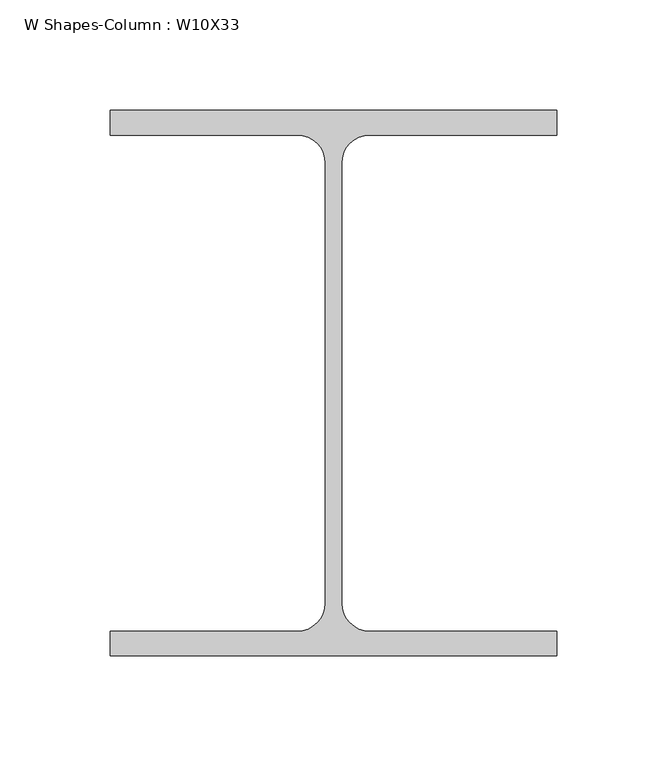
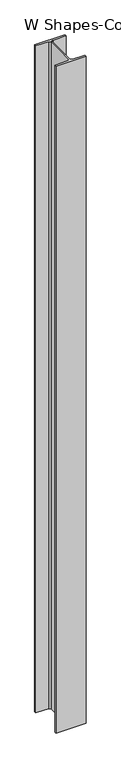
"""IFC4 building model written with IfcOpenShell, lengths in millimetres: column geometry, W Shapes-Column : W10X33."""

import ifcopenshell
import ifcopenshell.guid

model = None  # the IFC model being written
_history = None  # IfcOwnerHistory: only IFC2X3 demands one
_inside = {}  # id of a spatial element -> (the spatial element, [elements in it])
_under = {}  # id of a project, library or spatial element -> (it, [spatial elements below it])
_declared = {}  # id of a project -> (the project, [libraries it declares])
_typed = {}  # id of a type object -> (the type object, [elements of that type])
_made_of = {}  # id of a material, layer set ... -> (it, [elements and type objects made of it])


def new_model(schema):
    """Start an empty IFC model of exactly this schema.

    Asked for "IFC4X3", IfcOpenShell would pick the latest addendum, in which some entities
    have other attributes; the version numbers below select the first issue.
    IFC2X3 requires an IfcOwnerHistory on every rooted entity: one is made here for all.
    """
    global model, _history
    if schema == "IFC4X3":
        model = ifcopenshell.file(schema_version=(4, 3, 0, 0))
    else:
        model = ifcopenshell.file(schema=schema)
    _inside.clear()
    _under.clear()
    _declared.clear()
    _typed.clear()
    _made_of.clear()
    _history = None
    if model.schema == "IFC2X3":
        org = make("IfcOrganization", Name="unknown")
        user = make(
            "IfcPersonAndOrganization",
            ThePerson=make("IfcPerson", FamilyName="unknown"),
            TheOrganization=org,
        )
        app = make(
            "IfcApplication",
            ApplicationDeveloper=org,
            Version="unknown",
            ApplicationFullName="unknown",
            ApplicationIdentifier="unknown",
        )
        _history = make(
            "IfcOwnerHistory",
            OwningUser=user,
            OwningApplication=app,
            ChangeAction="ADDED",
            CreationDate=0,
        )
    return model


def make(cls, **values):
    """One entity of the class cls with the attributes given. An attribute that is None is left unset."""
    return model.create_entity(
        cls, **{name: value for name, value in values.items() if value is not None}
    )


def rooted(cls, **values):
    """An entity with a GlobalId (a new one), such as an element, a storey or a relation."""
    return make(cls, GlobalId=ifcopenshell.guid.new(), OwnerHistory=_history, **values)


def si_unit(unit_type, name, prefix=None):
    """IfcSIUnit, for example si_unit("LENGTHUNIT", "METRE", prefix="MILLI")."""
    return make("IfcSIUnit", UnitType=unit_type, Prefix=prefix, Name=name)


def assignment(units):
    """IfcUnitAssignment: the units of a project."""
    return None if units is None else make("IfcUnitAssignment", Units=units)


def point(xyz):
    """IfcCartesianPoint."""
    return None if xyz is None else make("IfcCartesianPoint", Coordinates=xyz)


def direction(xyz):
    """IfcDirection."""
    return None if xyz is None else make("IfcDirection", DirectionRatios=xyz)


def frame(location, z_axis=None, x_axis=None):
    """IfcAxis2Placement3D, a coordinate frame: its origin and axes. An axis left out is left unset."""
    return make(
        "IfcAxis2Placement3D",
        Location=point(location),
        Axis=direction(z_axis),
        RefDirection=direction(x_axis),
    )


def frame_2d(location, x_axis=None):
    """IfcAxis2Placement2D, a coordinate frame in the plane: its origin and x axis."""
    return make(
        "IfcAxis2Placement2D", Location=point(location), RefDirection=direction(x_axis)
    )


def origin():
    """The frame at (0, 0, 0) with its axes left unset."""
    return frame((0.0, 0.0, 0.0))


def place(relative_to, where):
    """IfcLocalPlacement: puts the frame where relative to a parent placement (None: the world)."""
    return make(
        "IfcLocalPlacement", PlacementRelTo=relative_to, RelativePlacement=where
    )


def context(
    kind, dimensions, precision=None, world=None, true_north=None, identifier=None
):
    """IfcGeometricRepresentationContext, for example the 3D "Model" context."""
    return make(
        "IfcGeometricRepresentationContext",
        ContextIdentifier=identifier,
        ContextType=kind,
        CoordinateSpaceDimension=dimensions,
        Precision=precision,
        WorldCoordinateSystem=world,
        TrueNorth=true_north,
    )


def project(units=None, contexts=None):
    """IfcProject with its units and contexts."""
    return rooted(
        "IfcProject",
        Name="project",
        RepresentationContexts=contexts,
        UnitsInContext=assignment(units),
    )


def spatial(cls, under=None, at=None, **own):
    """A site, building, storey or space (cls), placed at a placement, below another one or the project."""
    s = rooted(cls, ObjectPlacement=at, **own)
    if under is not None:
        _under.setdefault(under.id(), (under, []))[1].append(s)
    return s


def polyline(points):
    """IfcPolyline through the points."""
    return make("IfcPolyline", Points=[point(p) for p in points])


def circle_curve(where, radius):
    """IfcCircle in the frame where."""
    return make("IfcCircle", Position=where, Radius=radius)


def trimmed(basis, trim1, trim2, sense, master):
    """IfcTrimmedCurve: the piece of a basis curve between two trims."""
    return make(
        "IfcTrimmedCurve",
        BasisCurve=basis,
        Trim1=trim1,
        Trim2=trim2,
        SenseAgreement=sense,
        MasterRepresentation=master,
    )


def segment(curve, same_sense, transition):
    """IfcCompositeCurveSegment."""
    return make(
        "IfcCompositeCurveSegment",
        Transition=transition,
        SameSense=same_sense,
        ParentCurve=curve,
    )


def composite_curve(segments, self_intersect=None):
    """IfcCompositeCurve: segments joined end to end."""
    return make("IfcCompositeCurve", Segments=segments, SelfIntersect=self_intersect)


def outline(outer, holes=None, kind="AREA"):
    """IfcArbitraryClosedProfileDef: a profile drawn as a closed curve; with holes, ...WithVoids."""
    if holes is None:
        return make("IfcArbitraryClosedProfileDef", ProfileType=kind, OuterCurve=outer)
    return make(
        "IfcArbitraryProfileDefWithVoids",
        ProfileType=kind,
        OuterCurve=outer,
        InnerCurves=holes,
    )


def extrude(swept, where, along, depth):
    """IfcExtrudedAreaSolid: the profile swept, set in the frame where, extruded along a direction by depth."""
    return make(
        "IfcExtrudedAreaSolid",
        SweptArea=swept,
        Position=where,
        ExtrudedDirection=direction(along),
        Depth=depth,
    )


def shape(context_of_items, identifier, shape_type, items):
    """IfcShapeRepresentation: the items that make up one representation, for example the "Body"."""
    return make(
        "IfcShapeRepresentation",
        ContextOfItems=context_of_items,
        RepresentationIdentifier=identifier,
        RepresentationType=shape_type,
        Items=items,
    )


def source(mapping_origin, context_of_items, identifier, shape_type, items):
    """IfcRepresentationMap: a shape defined once, which mapped items show again and again."""
    return make(
        "IfcRepresentationMap",
        MappingOrigin=mapping_origin,
        MappedRepresentation=shape(context_of_items, identifier, shape_type, items),
    )


def transform(
    local_origin,
    x_axis=None,
    y_axis=None,
    z_axis=None,
    scale=None,
    scale2=None,
    scale3=None,
    uniform=True,
):
    """IfcCartesianTransformationOperator3D, or its non-uniform kind. x_axis, y_axis, z_axis: its Axis1, 2, 3."""
    if uniform:
        return make(
            "IfcCartesianTransformationOperator3D",
            Axis1=direction(x_axis),
            Axis2=direction(y_axis),
            LocalOrigin=point(local_origin),
            Scale=scale,
            Axis3=direction(z_axis),
        )
    return make(
        "IfcCartesianTransformationOperator3DnonUniform",
        Axis1=direction(x_axis),
        Axis2=direction(y_axis),
        LocalOrigin=point(local_origin),
        Scale=scale,
        Axis3=direction(z_axis),
        Scale2=scale2,
        Scale3=scale3,
    )


def mapped(mapping_source, mapping_target):
    """IfcMappedItem: shows the shape of a source again, moved by a transform."""
    return make(
        "IfcMappedItem", MappingSource=mapping_source, MappingTarget=mapping_target
    )


def made_of(thing, what):
    """Note that an element or type object is made of a material, layer set ...; save() writes the relation."""
    if what is not None:
        _made_of.setdefault(what.id(), (what, []))[1].append(thing)
    return thing


def element(
    cls,
    number,
    at=None,
    inside=None,
    cuts=None,
    type_object=None,
    material=None,
    context=None,
    identifier="Body",
    shape_type=None,
    held_by="IfcProductDefinitionShape",
    body=None,
    shapes=None,
    **own,
):
    """One element of the class cls, such as IfcWall. Its Tag is "e" and its number.

    at: its placement. inside: the storey or other place that contains it. cuts: it is an
    opening in that element (IfcRelVoidsElement). A single representation is given by context,
    identifier, shape_type and body (its items); several are given by shapes. held_by: the class
    of the entity that holds the representations. save() writes the other relations.
    """
    e = rooted(cls, Tag="e%d" % number, ObjectPlacement=at, **own)
    if body is not None:
        shapes = [shape(context, identifier, shape_type, body)]
    if shapes is not None:
        e.Representation = make(held_by, Representations=shapes)
    if inside is not None:
        _inside.setdefault(inside.id(), (inside, []))[1].append(e)
    if cuts is not None:
        rooted(
            "IfcRelVoidsElement", RelatingBuildingElement=cuts, RelatedOpeningElement=e
        )
    if type_object is not None:
        _typed.setdefault(type_object.id(), (type_object, []))[1].append(e)
    return made_of(e, material)


def aggregate(whole, parts):
    """IfcRelAggregates: a whole, such as a stair, and the parts it consists of."""
    return rooted("IfcRelAggregates", RelatingObject=whole, RelatedObjects=parts)


def save(model, path):
    """Write the relations noted so far, then the file.

    IfcRelAggregates (storeys below a building ...), IfcRelContainedInSpatialStructure (elements
    in a storey), IfcRelDefinesByType, IfcRelAssociatesMaterial and IfcRelDeclares: one each for
    every whole, place, type object, material and project.
    """
    for whole, parts in _under.values():
        aggregate(whole, parts)
    for where, things in _inside.values():
        rooted(
            "IfcRelContainedInSpatialStructure",
            RelatedElements=things,
            RelatingStructure=where,
        )
    for kind, things in _typed.values():
        rooted("IfcRelDefinesByType", RelatedObjects=things, RelatingType=kind)
    for what, things in _made_of.values():
        rooted("IfcRelAssociatesMaterial", RelatedObjects=things, RelatingMaterial=what)
    for by, libraries in _declared.values():
        rooted("IfcRelDeclares", RelatingContext=by, RelatedDefinitions=libraries)
    model.write(path)


def w_shapes_column_w10x33_dbc38788(model_context):
    return source(origin(), model_context, "Body", "SweptSolid", [
        extrude(outline(composite_curve([segment(polyline([(101.092, 123.571), (101.092, 112.395), (16.383, 112.395)]), True, "CONTINUOUS"), segment(trimmed(circle_curve(frame_2d((16.383, 99.695)), 12.7), [point((16.383, 112.395))], [point((3.683, 99.695))], True, "CARTESIAN"), True, "CONTINUOUS"), segment(polyline([(3.683, 99.695), (3.683, -99.695)]), True, "CONTINUOUS"), segment(trimmed(circle_curve(frame_2d((16.383, -99.695)), 12.7), [point((3.683, -99.695))], [point((16.383, -112.395))], True, "CARTESIAN"), True, "CONTINUOUS"), segment(polyline([(16.383, -112.395), (101.092, -112.395), (101.092, -123.571), (-101.092, -123.571), (-101.092, -112.395), (-16.383, -112.395)]), True, "CONTINUOUS"), segment(trimmed(circle_curve(frame_2d((-16.383, -99.695)), 12.7), [point((-16.383, -112.395))], [point((-3.683, -99.695))], True, "CARTESIAN"), True, "CONTINUOUS"), segment(polyline([(-3.683, -99.695), (-3.683, 99.695)]), True, "CONTINUOUS"), segment(trimmed(circle_curve(frame_2d((-16.383, 99.695)), 12.7), [point((-3.683, 99.695))], [point((-16.383, 112.395))], True, "CARTESIAN"), True, "CONTINUOUS"), segment(polyline([(-16.383, 112.395), (-101.092, 112.395), (-101.092, 123.571), (101.092, 123.571)]), True, "CONTINUOUS")], self_intersect=False)), frame((0.0, 0.0, -1676.4), z_axis=(0.0, 0.0, 1.0), x_axis=(1.0, 0.0, 0.0)), (0.0, 0.0, 1.0), 4724.4),
    ])


if __name__ == "__main__":
    model = new_model("IFC4")
    model_context = context("Model", 3, world=origin())
    ifc_project = project(units=[si_unit("LENGTHUNIT", "METRE", prefix="MILLI")], contexts=[model_context])
    site = spatial("IfcSite", under=ifc_project)
    building = spatial("IfcBuilding", under=site)
    placement = place(None, origin())
    w_shapes_column_w10x33_shape = w_shapes_column_w10x33_dbc38788(model_context)
    element("IfcColumn", 1, ObjectType="W Shapes-Column : W10X33", at=placement, inside=building, context=model_context, shape_type="MappedRepresentation", body=[
        mapped(w_shapes_column_w10x33_shape, transform((0.0, 0.0, 0.0), x_axis=(1.0, 0.0, 0.0), y_axis=(0.0, 1.0, 0.0), z_axis=(0.0, 0.0, 1.0))),
    ])
    save(model, "model.ifc")
